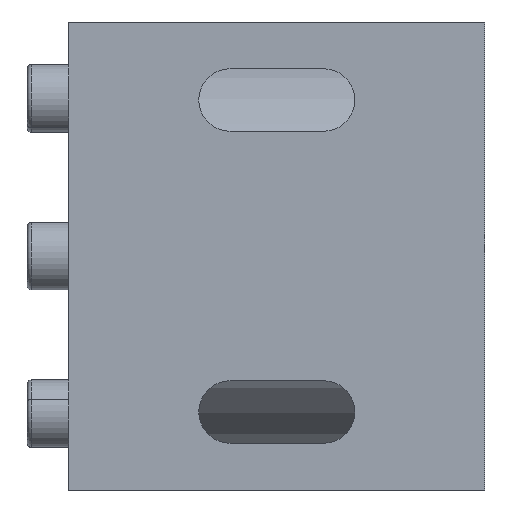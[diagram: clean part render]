
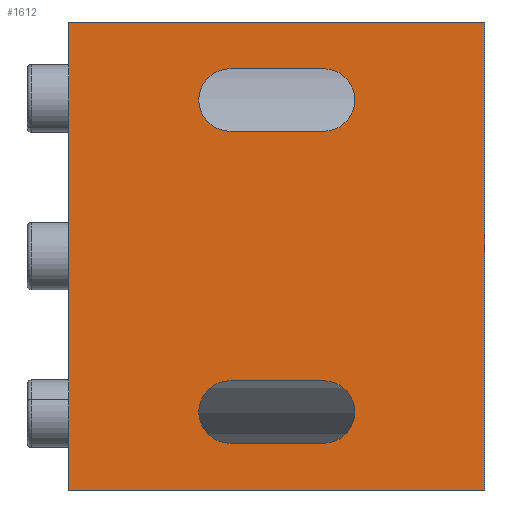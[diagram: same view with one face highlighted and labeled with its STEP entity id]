
A CAD part, front view. The second image highlights one B-rep face of the part: STEP entity #1612.
In plain terms, the highlighted planar face has unit normal (0, -1, 0).
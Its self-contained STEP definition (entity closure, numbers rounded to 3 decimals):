
#46 = VERTEX_POINT ( 'NONE', #868 ) ;
#232 = EDGE_LOOP ( 'NONE', ( #5585, #5569, #5319, #5846 ) ) ;
#261 = CARTESIAN_POINT ( 'NONE',  ( 21.5, -70., 36. ) ) ;
#571 = FACE_OUTER_BOUND ( 'NONE', #7582, .T. ) ;
#608 = VECTOR ( 'NONE', #5212, 1000. ) ;
#624 = VERTEX_POINT ( 'NONE', #6030 ) ;
#868 = CARTESIAN_POINT ( 'NONE',  ( 21.5, -70., -24. ) ) ;
#1044 = VERTEX_POINT ( 'NONE', #7643 ) ;
#1062 = AXIS2_PLACEMENT_3D ( 'NONE', #7905, #9526, #9715 ) ;
#1145 = VERTEX_POINT ( 'NONE', #261 ) ;
#1158 = CARTESIAN_POINT ( 'NONE',  ( 70.5, -70., 45. ) ) ;
#1370 = CARTESIAN_POINT ( 'NONE',  ( 39.5, -70., 24. ) ) ;
#1534 = LINE ( 'NONE', #2543, #9684 ) ;
#1575 = EDGE_CURVE ( 'NONE', #6105, #624, #2514, .T. ) ;
#1612 = ADVANCED_FACE ( 'NONE', ( #11223, #6631, #571 ), #3378, .F. ) ;
#1941 = VERTEX_POINT ( 'NONE', #3922 ) ;
#1995 = CARTESIAN_POINT ( 'NONE',  ( 21.5, -70., -36. ) ) ;
#2020 = VECTOR ( 'NONE', #2749, 1000. ) ;
#2514 = LINE ( 'NONE', #1158, #2020 ) ;
#2516 = EDGE_LOOP ( 'NONE', ( #10848, #6331, #5556, #5520 ) ) ;
#2543 = CARTESIAN_POINT ( 'NONE',  ( 39.5, -70., 36. ) ) ;
#2749 = DIRECTION ( 'NONE',  ( 0., 0., -1. ) ) ;
#2932 = VERTEX_POINT ( 'NONE', #11616 ) ;
#2938 = CIRCLE ( 'NONE', #9905, 6. ) ;
#3107 = CARTESIAN_POINT ( 'NONE',  ( 70.5, -70., 45. ) ) ;
#3110 = EDGE_CURVE ( 'NONE', #4180, #3251, #6636, .T. ) ;
#3222 = DIRECTION ( 'NONE',  ( 0., 0., -1. ) ) ;
#3227 = CARTESIAN_POINT ( 'NONE',  ( -9.5, -70., 45. ) ) ;
#3239 = LINE ( 'NONE', #3227, #8494 ) ;
#3251 = VERTEX_POINT ( 'NONE', #1370 ) ;
#3321 = CIRCLE ( 'NONE', #10294, 6. ) ;
#3378 = PLANE ( 'NONE',  #9232 ) ;
#3922 = CARTESIAN_POINT ( 'NONE',  ( 39.5, -70., 36. ) ) ;
#3957 = VERTEX_POINT ( 'NONE', #11091 ) ;
#4180 = VERTEX_POINT ( 'NONE', #6798 ) ;
#4242 = EDGE_CURVE ( 'NONE', #2932, #6105, #6969, .T. ) ;
#4447 = VERTEX_POINT ( 'NONE', #1995 ) ;
#4736 = EDGE_CURVE ( 'NONE', #3957, #624, #7823, .T. ) ;
#4917 = AXIS2_PLACEMENT_3D ( 'NONE', #10032, #9967, #9545 ) ;
#5068 = VECTOR ( 'NONE', #11536, 1000. ) ;
#5212 = DIRECTION ( 'NONE',  ( 1., 0., 0. ) ) ;
#5319 = ORIENTED_EDGE ( 'NONE', *, *, #3110, .F. ) ;
#5520 = ORIENTED_EDGE ( 'NONE', *, *, #11149, .F. ) ;
#5556 = ORIENTED_EDGE ( 'NONE', *, *, #6224, .F. ) ;
#5569 = ORIENTED_EDGE ( 'NONE', *, *, #8696, .F. ) ;
#5585 = ORIENTED_EDGE ( 'NONE', *, *, #10118, .F. ) ;
#5750 = CARTESIAN_POINT ( 'NONE',  ( 39.5, -70., -36. ) ) ;
#5846 = ORIENTED_EDGE ( 'NONE', *, *, #10108, .F. ) ;
#5953 = ORIENTED_EDGE ( 'NONE', *, *, #4736, .T. ) ;
#5969 = ORIENTED_EDGE ( 'NONE', *, *, #7384, .T. ) ;
#6030 = CARTESIAN_POINT ( 'NONE',  ( 70.5, -70., -45. ) ) ;
#6031 = ORIENTED_EDGE ( 'NONE', *, *, #4242, .F. ) ;
#6105 = VERTEX_POINT ( 'NONE', #3107 ) ;
#6224 = EDGE_CURVE ( 'NONE', #4447, #11281, #12336, .T. ) ;
#6331 = ORIENTED_EDGE ( 'NONE', *, *, #8604, .F. ) ;
#6347 = CARTESIAN_POINT ( 'NONE',  ( 39.5, -70., 24. ) ) ;
#6483 = CIRCLE ( 'NONE', #1062, 6. ) ;
#6631 = FACE_BOUND ( 'NONE', #232, .T. ) ;
#6636 = LINE ( 'NONE', #6347, #5068 ) ;
#6798 = CARTESIAN_POINT ( 'NONE',  ( 21.5, -70., 24. ) ) ;
#6938 = DIRECTION ( 'NONE',  ( 1., 0., 0. ) ) ;
#6943 = DIRECTION ( 'NONE',  ( -1., 0., 0. ) ) ;
#6969 = LINE ( 'NONE', #6999, #12366 ) ;
#6999 = CARTESIAN_POINT ( 'NONE',  ( 70.5, -70., 45. ) ) ;
#7384 = EDGE_CURVE ( 'NONE', #2932, #3957, #3239, .T. ) ;
#7582 = EDGE_LOOP ( 'NONE', ( #5953, #9853, #6031, #5969 ) ) ;
#7643 = CARTESIAN_POINT ( 'NONE',  ( 39.5, -70., -24. ) ) ;
#7655 = CARTESIAN_POINT ( 'NONE',  ( 70.5, -70., 45. ) ) ;
#7823 = LINE ( 'NONE', #7965, #608 ) ;
#7905 = CARTESIAN_POINT ( 'NONE',  ( 21.5, -70., 30. ) ) ;
#7965 = CARTESIAN_POINT ( 'NONE',  ( 70.5, -70., -45. ) ) ;
#8494 = VECTOR ( 'NONE', #3222, 1000. ) ;
#8604 = EDGE_CURVE ( 'NONE', #11281, #1044, #3321, .T. ) ;
#8696 = EDGE_CURVE ( 'NONE', #3251, #1941, #2938, .T. ) ;
#9232 = AXIS2_PLACEMENT_3D ( 'NONE', #7655, #11586, #11602 ) ;
#9356 = LINE ( 'NONE', #9470, #11901 ) ;
#9414 = DIRECTION ( 'NONE',  ( -1., 0., 0. ) ) ;
#9470 = CARTESIAN_POINT ( 'NONE',  ( 39.5, -70., -24. ) ) ;
#9526 = DIRECTION ( 'NONE',  ( 0., -1., 0. ) ) ;
#9545 = DIRECTION ( 'NONE',  ( 0., 0., 1. ) ) ;
#9684 = VECTOR ( 'NONE', #6943, 1000. ) ;
#9701 = DIRECTION ( 'NONE',  ( 1., 0., 0. ) ) ;
#9715 = DIRECTION ( 'NONE',  ( 0., 0., -1. ) ) ;
#9720 = DIRECTION ( 'NONE',  ( 0., 0., -1. ) ) ;
#9723 = DIRECTION ( 'NONE',  ( 0., -1., 0. ) ) ;
#9738 = CARTESIAN_POINT ( 'NONE',  ( 39.5, -70., 30. ) ) ;
#9764 = CARTESIAN_POINT ( 'NONE',  ( 39.5, -70., -36. ) ) ;
#9853 = ORIENTED_EDGE ( 'NONE', *, *, #1575, .F. ) ;
#9905 = AXIS2_PLACEMENT_3D ( 'NONE', #9738, #9723, #9720 ) ;
#9967 = DIRECTION ( 'NONE',  ( 0., -1., 0. ) ) ;
#10032 = CARTESIAN_POINT ( 'NONE',  ( 21.5, -70., -30. ) ) ;
#10108 = EDGE_CURVE ( 'NONE', #1145, #4180, #6483, .T. ) ;
#10118 = EDGE_CURVE ( 'NONE', #1941, #1145, #1534, .T. ) ;
#10294 = AXIS2_PLACEMENT_3D ( 'NONE', #10956, #10934, #10898 ) ;
#10343 = CIRCLE ( 'NONE', #4917, 6. ) ;
#10789 = VECTOR ( 'NONE', #9701, 1000. ) ;
#10848 = ORIENTED_EDGE ( 'NONE', *, *, #11150, .F. ) ;
#10898 = DIRECTION ( 'NONE',  ( 0., 0., 1. ) ) ;
#10934 = DIRECTION ( 'NONE',  ( 0., -1., 0. ) ) ;
#10956 = CARTESIAN_POINT ( 'NONE',  ( 39.5, -70., -30. ) ) ;
#11091 = CARTESIAN_POINT ( 'NONE',  ( -9.5, -70., -45. ) ) ;
#11149 = EDGE_CURVE ( 'NONE', #46, #4447, #10343, .T. ) ;
#11150 = EDGE_CURVE ( 'NONE', #1044, #46, #9356, .T. ) ;
#11223 = FACE_BOUND ( 'NONE', #2516, .T. ) ;
#11281 = VERTEX_POINT ( 'NONE', #5750 ) ;
#11536 = DIRECTION ( 'NONE',  ( 1., 0., 0. ) ) ;
#11586 = DIRECTION ( 'NONE',  ( 0., 1., 0. ) ) ;
#11602 = DIRECTION ( 'NONE',  ( 0., 0., 1. ) ) ;
#11616 = CARTESIAN_POINT ( 'NONE',  ( -9.5, -70., 45. ) ) ;
#11901 = VECTOR ( 'NONE', #9414, 1000. ) ;
#12336 = LINE ( 'NONE', #9764, #10789 ) ;
#12366 = VECTOR ( 'NONE', #6938, 1000. ) ;
